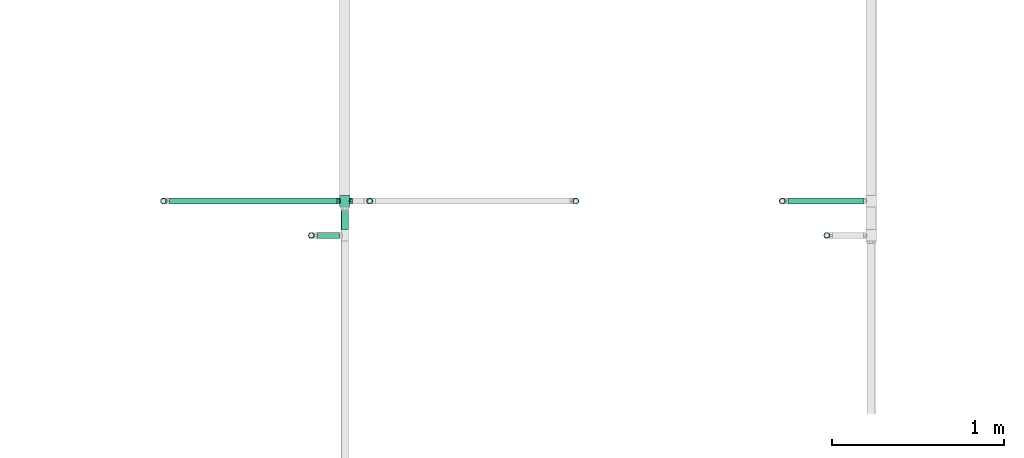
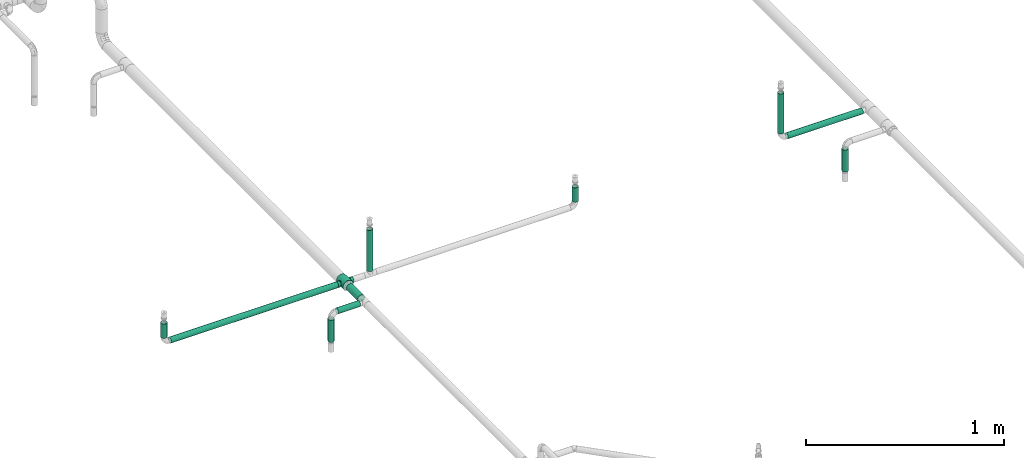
# One storey, part 13 of 157: 10 flow segments, 1 flow fitting.
"""IFC2X3 building model written with IfcOpenShell, lengths in millimetres."""

from ifc_helpers import new_model, entity, si_unit, converted_unit, derived_unit, direction, frame, origin_with_axes, origin_2d_with_axis, place, context, subcontext, project, spatial, hollow_circle, extrude, open_shell, surface_model, source, transform, mapped, type_object, element, save


model = new_model("IFC2X3")

# Units and contexts
model_context = context("Model", 3, precision=0.01, world=frame((0.0, 4.29681676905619e-09, 0.0)), true_north=direction((4.01073788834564e-13, 1.0)))
plan_context = context("Plan", 3, precision=0.01, world=frame((0.0, 4.29681676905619e-09, 0.0)), true_north=direction((4.01073788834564e-13, 1.0)))
body_context = subcontext(model_context, "Body", "Model", "MODEL_VIEW")
ifc_project = project(units=[converted_unit("PLANEANGLEUNIT", "DEGREE", entity("IfcPositiveLengthMeasure", 0.0174532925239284), si_unit("PLANEANGLEUNIT", "RADIAN"), dimensions=[0, 0, 0, 0, 0, 0, 0]), si_unit("AREAUNIT", "SQUARE_METRE"), si_unit("LENGTHUNIT", "METRE", prefix="MILLI"), si_unit("MASSUNIT", "GRAM", prefix="KILO"), si_unit("POWERUNIT", "WATT"), si_unit("PRESSUREUNIT", "PASCAL"), si_unit("FORCEUNIT", "NEWTON", prefix="KILO"), si_unit("ELECTRICCURRENTUNIT", "AMPERE"), si_unit("THERMODYNAMICTEMPERATUREUNIT", "DEGREE_CELSIUS"), si_unit("TIMEUNIT", "SECOND"), si_unit("VOLUMEUNIT", "CUBIC_METRE"), derived_unit("LINEARVELOCITYUNIT", [(si_unit("LENGTHUNIT", "METRE"), 1), (si_unit("TIMEUNIT", "SECOND"), -1)]), derived_unit("VOLUMETRICFLOWRATEUNIT", [(si_unit("VOLUMEUNIT", "CUBIC_METRE"), 1), (si_unit("TIMEUNIT", "SECOND"), -1)]), derived_unit("THERMALTRANSMITTANCEUNIT", [(si_unit("POWERUNIT", "WATT"), 1), (si_unit("THERMODYNAMICTEMPERATUREUNIT", "KELVIN"), -1), (si_unit("AREAUNIT", "SQUARE_METRE"), -1)])], contexts=[model_context, plan_context])

# Site, building, storey
site_placement = place(None, frame((0.0, -4.29681676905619e-09, 0.0), z_axis=(0.0, 0.0, 1.0), x_axis=(1.0, 0.0, 0.0)))
site = spatial("IfcSite", under=ifc_project, at=site_placement, CompositionType="ELEMENT")
building_placement = place(site_placement, frame((0.0, 4.29681676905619e-09, 0.0), z_axis=(0.0, 0.0, 1.0), x_axis=(1.0, 0.0, 0.0)))
building = spatial("IfcBuilding", under=site, at=building_placement, Name="mc-building", CompositionType="ELEMENT")
storey_placement = place(building_placement, frame((0.0, 0.0, 204000.0), z_axis=(0.0, 0.0, 1.0), x_axis=(1.0, 0.0, 0.0)))
storey = spatial("IfcBuildingStorey", under=building, at=storey_placement, Name="Nivå D", CompositionType="ELEMENT", Elevation=204000.0)

# Flow fitting
pipe_fitting_type = type_object("IfcPipeFittingType", Name="magi_pipe_fe_cross_centric_90_001", PredefinedType="JUNCTION")
shared_shape_1 = source(origin_with_axes(), body_context, "Body", "SurfaceModel", [
    surface_model("IfcShellBasedSurfaceModel", [(4.37404, 45.3, -16.32415), (16.32415, 45.3, -4.37404), (14.63583, 45.3, -8.45), (-33.8, 15.1, -26.15397), (-33.8, 7.81634, -29.17096), (-33.8, 0.0, -30.2), (-33.8, 29.17096, -7.81634), (-33.8, 26.15397, -15.1), (-33.8, 21.35462, -21.35462), (-33.8, 30.2, 0.0), (-33.8, -30.2, 0.0), (-33.8, -15.1, -26.15397), (-33.8, -21.35462, -21.35462), (-33.8, -7.81634, -29.17096), (-33.8, -26.15397, -15.1), (-33.8, -29.17096, -7.81634), (-33.8, 26.15397, 15.1), (-33.8, 29.17096, 7.81634), (-33.8, 15.1, 26.15397), (-33.8, -21.35462, 21.35462), (-33.8, 21.35462, 21.35462), (-33.8, 7.81634, 29.17096), (-33.8, -29.17096, 7.81634), (-33.8, -26.15397, 15.1), (-33.8, -7.81634, 29.17096), (-33.8, 0.0, 30.2), (-33.8, -15.1, 26.15397), (33.8, 29.17096, -7.81634), (33.8, 0.0, -30.2), (33.8, 7.81634, -29.17096), (33.8, 21.35462, -21.35462), (33.8, 15.1, -26.15397), (33.8, 26.15397, -15.1), (33.8, -30.2, 0.0), (33.8, -7.81634, -29.17096), (33.8, -21.35462, -21.35462), (33.8, -15.1, -26.15397), (33.8, -29.17096, -7.81634), (33.8, -26.15397, -15.1), (33.8, 30.2, 0.0), (33.8, 29.17096, 7.81634), (33.8, 26.15397, 15.1), (33.8, -29.17096, 7.81634), (33.8, 15.1, 26.15397), (33.8, 7.81634, 29.17096), (33.8, 21.35462, 21.35462), (33.8, -21.35462, 21.35462), (33.8, -26.15397, 15.1), (33.8, -15.1, 26.15397), (33.8, 0.0, 30.2), (33.8, -7.81634, 29.17096), (33.8, -29.68548, 3.90817), (15.846, -29.62306, 5.87488), (16.373, -29.91153, 2.93744), (16.9, -30.2, 0.0), (-8.51006, -26.43579, 14.60099), (-33.8, -27.66246, 11.45817), (-12.91447, -28.16405, 10.90075), (-15.84655, -29.62335, 5.87341), (12.91037, -28.16217, 10.90561), (33.8, -27.66246, 11.45817), (-2.99705, -25.20739, 16.63213), (2.99213, -25.2068, 16.63301), (-16.37327, -29.91168, 2.93671), (-33.8, -29.68548, 3.90817), (-16.37327, -29.91168, -2.93671), (-16.9, -30.2, 0.0), (2.99213, -25.2068, -16.63301), (-33.8, -29.68548, -3.90817), (-15.84655, -29.62335, -5.87341), (15.846, -29.62306, -5.87488), (12.91037, -28.16217, -10.90561), (8.50854, -26.43531, -14.60187), (33.8, -27.66246, -11.45817), (-12.91447, -28.16405, -10.90075), (-33.8, -27.66246, -11.45817), (33.8, -29.68548, -3.90817), (16.373, -29.91153, -2.93744), (-8.51006, -26.43579, -14.60099), (4.37404, -45.3, -16.32415), (-16.9, -45.3, 0.0), (0.0, -45.3, -16.9), (14.63583, -45.3, -8.45), (8.45, -45.3, -14.63583), (16.32415, -45.3, -4.37404), (11.9501, -45.3, -11.9501), (-11.9501, -45.3, -11.9501), (-8.45, -45.3, -14.63583), (-4.37404, -45.3, -16.32415), (-14.63583, -45.3, -8.45), (-16.32415, -45.3, -4.37404), (16.9, -45.3, 0.0), (8.45, -45.3, 14.63583), (16.32415, -45.3, 4.37404), (14.63583, -45.3, 8.45), (-8.45, -45.3, 14.63583), (11.9501, -45.3, 11.9501), (4.37404, -45.3, 16.32415), (-16.32415, -45.3, 4.37404), (-11.9501, -45.3, 11.9501), (-14.63583, -45.3, 8.45), (0.0, -45.3, 16.9), (-4.37404, -45.3, 16.32415), (-5.75355, -25.82159, 15.61656), (-0.00246, -25.20709, 16.63257), (5.75034, -25.82105, 15.61744), (8.50854, -26.43531, 14.60187), (5.75034, -25.82105, -15.61744), (-2.99705, -25.20739, -16.63213), (-0.00246, -25.20709, -16.63257), (-5.75355, -25.82159, -15.61656), (15.84655, 29.62335, 5.87341), (33.8, 29.68548, 3.90817), (16.37327, 29.91168, 2.93671), (2.99705, 25.20739, 16.63213), (16.9, 30.2, 0.0), (33.8, 27.66246, 11.45817), (8.51006, 26.43579, 14.60099), (12.91447, 28.16405, 10.90075), (-33.8, 29.68548, 3.90817), (-15.846, 29.62306, 5.87488), (-16.373, 29.91153, 2.93744), (-2.99213, 25.2068, 16.63301), (-8.50854, 26.43531, 14.60187), (-16.9, 30.2, 0.0), (-12.91037, 28.16217, 10.90561), (-33.8, 27.66246, 11.45817), (33.8, 29.68548, -3.90817), (15.84655, 29.62335, -5.87341), (16.37327, 29.91168, -2.93671), (12.91447, 28.16405, -10.90075), (8.51006, 26.43579, -14.60099), (33.8, 27.66246, -11.45817), (-2.99213, 25.2068, -16.63301), (2.99705, 25.20739, -16.63213), (-16.373, 29.91153, -2.93744), (-33.8, 29.68548, -3.90817), (-12.91037, 28.16217, -10.90561), (-33.8, 27.66246, -11.45817), (-15.846, 29.62306, -5.87488), (-8.50854, 26.43531, -14.60187), (-4.37404, 45.3, -16.32415), (16.32415, 45.3, 4.37404), (0.0, 45.3, -16.9), (-11.9501, 45.3, -11.9501), (-8.45, 45.3, -14.63583), (-14.63583, 45.3, -8.45), (-16.32415, 45.3, -4.37404), (16.9, 45.3, 0.0), (8.45, 45.3, -14.63583), (11.9501, 45.3, -11.9501), (8.45, 45.3, 14.63583), (-16.32415, 45.3, 4.37404), (-14.63583, 45.3, 8.45), (-8.45, 45.3, 14.63583), (-11.9501, 45.3, 11.9501), (-4.37404, 45.3, 16.32415), (11.9501, 45.3, 11.9501), (14.63583, 45.3, 8.45), (0.0, 45.3, 16.9), (4.37404, 45.3, 16.32415), (-16.9, 45.3, 0.0), (5.75355, 25.82159, 15.61656), (0.00246, 25.20709, 16.63257), (-5.75034, 25.82105, 15.61744), (-5.75034, 25.82105, -15.61744), (0.00246, 25.20709, -16.63257), (5.75355, 25.82159, -15.61656)], [open_shell([[[0, 1, 2]], [[3, 4, 5]], [[6, 3, 5]], [[3, 6, 7]], [[8, 3, 7]], [[9, 5, 10]], [[11, 12, 13]], [[12, 5, 13]], [[14, 15, 12]], [[10, 12, 15]], [[12, 10, 5]], [[9, 6, 5]], [[16, 17, 9]], [[10, 18, 16]], [[10, 19, 18]], [[20, 16, 18]], [[21, 18, 19]], [[22, 23, 10]], [[10, 23, 19]], [[24, 25, 26]], [[19, 26, 25]], [[19, 25, 21]], [[10, 16, 9]], [[27, 28, 29]], [[30, 29, 31]], [[32, 27, 29]], [[32, 29, 30]], [[28, 27, 33]], [[34, 35, 36]], [[35, 34, 37]], [[35, 37, 38]], [[37, 34, 33]], [[34, 28, 33]], [[27, 39, 33]], [[39, 40, 41]], [[42, 39, 41]], [[43, 44, 41]], [[43, 41, 45]], [[46, 41, 44]], [[42, 46, 47]], [[42, 41, 46]], [[48, 49, 50]], [[49, 48, 46]], [[44, 49, 46]], [[39, 42, 33]], [[51, 42, 52]], [[33, 51, 53]], [[33, 53, 54]], [[51, 52, 53]], [[55, 56, 57]], [[58, 57, 22]], [[59, 42, 60]], [[23, 61, 19]], [[61, 62, 19]], [[10, 63, 64]], [[58, 22, 64]], [[44, 43, 18]], [[48, 26, 46]], [[10, 65, 66]], [[35, 67, 12]], [[68, 69, 65]], [[70, 71, 37]], [[72, 73, 71]], [[74, 15, 75]], [[74, 69, 15]], [[70, 37, 76]], [[69, 68, 15]], [[65, 10, 68]], [[33, 77, 76]], [[75, 14, 78]], [[35, 12, 36]], [[79, 80, 81]], [[82, 79, 83]], [[82, 84, 79]], [[82, 83, 85]], [[80, 79, 84]], [[81, 86, 87]], [[87, 88, 81]], [[89, 80, 90]], [[86, 81, 89]], [[80, 89, 81]], [[84, 91, 80]], [[92, 91, 93]], [[92, 93, 94]], [[95, 80, 92]], [[92, 94, 96]], [[95, 92, 97]], [[98, 99, 100]], [[99, 98, 95]], [[95, 101, 102]], [[98, 80, 95]], [[97, 101, 95]], [[92, 80, 91]], [[98, 63, 80]], [[57, 100, 99]], [[98, 100, 58]], [[99, 95, 55]], [[63, 66, 80]], [[58, 100, 57]], [[102, 61, 103]], [[55, 57, 99]], [[101, 62, 104]], [[92, 105, 97]], [[101, 97, 62]], [[53, 52, 93]], [[53, 91, 54]], [[105, 92, 106]], [[103, 95, 102]], [[103, 55, 95]], [[101, 61, 102]], [[98, 58, 63]], [[106, 92, 96]], [[96, 59, 106]], [[62, 97, 105]], [[93, 52, 94]], [[91, 53, 93]], [[94, 52, 59]], [[94, 59, 96]], [[104, 61, 101]], [[84, 77, 91]], [[71, 82, 85]], [[84, 82, 70]], [[85, 83, 72]], [[77, 54, 91]], [[70, 82, 71]], [[79, 67, 107]], [[72, 71, 85]], [[81, 108, 109]], [[87, 110, 88]], [[65, 69, 90]], [[107, 83, 79]], [[107, 72, 83]], [[78, 87, 86]], [[84, 70, 77]], [[69, 89, 90]], [[65, 80, 66]], [[86, 89, 74]], [[81, 67, 79]], [[88, 110, 108]], [[108, 81, 88]], [[78, 110, 87]], [[78, 86, 74]], [[74, 89, 69]], [[80, 65, 90]], [[109, 67, 81]], [[59, 52, 42]], [[47, 106, 60]], [[19, 62, 46]], [[106, 47, 62]], [[106, 59, 60]], [[62, 47, 46]], [[111, 40, 112]], [[48, 50, 24]], [[39, 113, 112]], [[22, 57, 56]], [[64, 63, 58]], [[63, 10, 66]], [[55, 23, 56]], [[61, 23, 55]], [[26, 19, 46]], [[48, 24, 26]], [[50, 25, 24]], [[50, 49, 25]], [[45, 20, 43]], [[44, 21, 49]], [[114, 45, 41]], [[39, 115, 113]], [[112, 113, 111]], [[41, 116, 117]], [[111, 118, 40]], [[119, 120, 121]], [[118, 116, 40]], [[114, 41, 117]], [[21, 44, 18]], [[114, 122, 45]], [[16, 122, 123]], [[45, 122, 20]], [[20, 18, 43]], [[20, 122, 16]], [[9, 121, 124]], [[125, 17, 126]], [[125, 120, 17]], [[126, 16, 123]], [[120, 119, 17]], [[121, 9, 119]], [[117, 116, 118]], [[126, 123, 125]], [[49, 21, 25]], [[127, 27, 128]], [[39, 127, 129]], [[130, 128, 27]], [[32, 131, 132]], [[133, 134, 30]], [[31, 3, 30]], [[131, 32, 134]], [[131, 130, 132]], [[134, 32, 30]], [[31, 29, 4]], [[130, 27, 132]], [[9, 135, 136]], [[6, 137, 138]], [[139, 137, 6]], [[136, 135, 139]], [[135, 9, 124]], [[140, 7, 138]], [[7, 133, 8]], [[133, 7, 140]], [[133, 30, 8]], [[3, 8, 30]], [[31, 4, 3]], [[29, 5, 4]], [[139, 6, 136]], [[29, 28, 5]], [[34, 13, 28]], [[34, 36, 11]], [[67, 35, 38]], [[33, 54, 77]], [[76, 77, 70]], [[140, 138, 137]], [[38, 73, 72]], [[127, 128, 129]], [[71, 73, 37]], [[67, 38, 72]], [[13, 34, 11]], [[14, 108, 78]], [[12, 67, 108]], [[12, 11, 36]], [[12, 108, 14]], [[39, 129, 115]], [[75, 78, 74]], [[28, 13, 5]], [[141, 142, 143]], [[144, 141, 145]], [[146, 147, 141]], [[146, 141, 144]], [[148, 143, 142]], [[149, 2, 150]], [[2, 149, 0]], [[1, 0, 148]], [[0, 143, 148]], [[151, 141, 147]], [[147, 152, 151]], [[153, 151, 152]], [[153, 154, 151]], [[154, 153, 155]], [[154, 156, 151]], [[142, 157, 158]], [[157, 142, 151]], [[151, 159, 160]], [[142, 141, 151]], [[156, 159, 151]], [[152, 147, 161]], [[142, 113, 148]], [[118, 158, 157]], [[142, 158, 111]], [[157, 151, 117]], [[113, 115, 148]], [[111, 158, 118]], [[160, 114, 162]], [[117, 118, 157]], [[159, 122, 163]], [[154, 164, 156]], [[159, 156, 122]], [[121, 120, 152]], [[121, 161, 124]], [[164, 154, 123]], [[162, 151, 160]], [[162, 117, 151]], [[159, 114, 160]], [[142, 111, 113]], [[123, 154, 155]], [[155, 125, 123]], [[122, 156, 164]], [[152, 120, 153]], [[161, 121, 152]], [[153, 120, 125]], [[153, 125, 155]], [[163, 114, 159]], [[147, 135, 161]], [[137, 146, 144]], [[147, 146, 139]], [[144, 145, 140]], [[135, 124, 161]], [[139, 146, 137]], [[141, 133, 165]], [[140, 137, 144]], [[143, 134, 166]], [[149, 167, 0]], [[129, 128, 1]], [[165, 145, 141]], [[165, 140, 145]], [[131, 149, 150]], [[147, 139, 135]], [[128, 2, 1]], [[129, 148, 115]], [[150, 2, 130]], [[143, 133, 141]], [[0, 167, 134]], [[134, 143, 0]], [[131, 167, 149]], [[131, 150, 130]], [[130, 2, 128]], [[148, 129, 1]], [[166, 133, 143]]])]),
])
flow_fitting_placement = place(storey_placement, frame((524695.35, 410800.0, 2880.0), z_axis=(0.0, 0.0, 1.0), x_axis=(0.0, 1.0, 0.0)))
element("IfcFlowFitting", 1, at=flow_fitting_placement, inside=storey, type_object=pipe_fitting_type, Name="magi_pipe_fe_cross_centric_90_001", context=body_context, shape_type="MappedRepresentation", body=[
    mapped(shared_shape_1, transform((0.0, 0.0, 0.0), scale=1.0)),
])

# Flow segments
pipe_segment_type = type_object("IfcPipeSegmentType", Name="Stålrør normaltykke", PredefinedType="RIGIDSEGMENT")
shared_shape_2 = source(origin_with_axes(), body_context, "Body", "SweptSolid", [
    extrude(hollow_circle(Radius=16.9, WallThickness=2.0, at=origin_2d_with_axis()), frame((0.0, 0.0, 0.0), z_axis=(1.0, 0.0, 0.0), x_axis=(0.0, 1.0, 0.0)), (0.0, 0.0, 1.0), 247.3),
])
flow_segment_1_placement = place(storey_placement, frame((527240.35, 410800.00002, 2913.79999999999), z_axis=(0.0, 1.0, 0.0), x_axis=(0.0, 0.0, 1.0)))
element("IfcFlowSegment", 2, at=flow_segment_1_placement, inside=storey, type_object=pipe_segment_type, Name="Stålrør normaltykke", context=body_context, shape_type="MappedRepresentation", body=[
    mapped(shared_shape_2, transform((0.0, 0.0, 0.0), scale=1.0)),
])
shared_shape_3 = source(origin_with_axes(), body_context, "Body", "SweptSolid", [
    extrude(hollow_circle(Radius=16.9, WallThickness=2.0, at=origin_2d_with_axis()), frame((0.0, 0.0, 0.0), z_axis=(1.0, 0.0, 0.0), x_axis=(0.0, 1.0, 0.0)), (0.0, 0.0, 1.0), 254.8),
])
flow_segment_2_placement = place(storey_placement, frame((524840.35, 410800.0, 2905.35000000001), z_axis=(0.0, 1.0, 0.0), x_axis=(0.0, 0.0, 1.0)))
element("IfcFlowSegment", 3, at=flow_segment_2_placement, inside=storey, type_object=pipe_segment_type, Name="Stålrør normaltykke", context=body_context, shape_type="MappedRepresentation", body=[
    mapped(shared_shape_3, transform((0.0, 0.0, 0.0), scale=1.0)),
])
shared_shape_4 = source(origin_with_axes(), body_context, "Body", "SweptSolid", [
    extrude(hollow_circle(Radius=16.9, WallThickness=2.0, at=origin_2d_with_axis()), frame((0.0, 0.0, 0.0), z_axis=(1.0, 0.0, 0.0), x_axis=(0.0, 1.0, 0.0)), (0.0, 0.0, 1.0), 88.3),
])
for number, where, z_axis, x_axis in (
    (4, (526039.775, 410800.0, 3002.14799999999), (0.0, 1.0, 0.0), (0.0, 0.0, -1.0)),
    (5, (523639.775, 410800.0, 3002.14799999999), (0.0, 1.0, 0.0), (0.0, 0.0, -1.0)),
):
    element("IfcFlowSegment", number, at=place(storey_placement, frame(where, z_axis=z_axis, x_axis=x_axis)), inside=storey, type_object=pipe_segment_type, Name="Stålrør normaltykke", context=body_context, shape_type="MappedRepresentation", body=[
        mapped(shared_shape_4, transform((0.0, 0.0, 0.0), scale=1.0)),
    ])
shared_shape_5 = source(origin_with_axes(), body_context, "Body", "SweptSolid", [
    extrude(hollow_circle(Radius=16.9, WallThickness=2.0, at=origin_2d_with_axis()), frame((0.0, 0.0, 0.0), z_axis=(1.0, 0.0, 0.0), x_axis=(0.0, 1.0, 0.0)), (0.0, 0.0, 1.0), 136.8),
])
for number, where, z_axis, x_axis in (
    (6, (524500.0, 410600.0, 2846.20000000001), (1.0, 0.0, 0.0), (0.0, 0.0, -1.0)),
    (7, (527500.0, 410600.0, 2709.35200000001), (0.0, 1.0, 0.0), (0.0, 0.0, 1.0)),
):
    element("IfcFlowSegment", number, at=place(storey_placement, frame(where, z_axis=z_axis, x_axis=x_axis)), inside=storey, type_object=pipe_segment_type, Name="Stålrør normaltykke", context=body_context, shape_type="MappedRepresentation", body=[
        mapped(shared_shape_5, transform((0.0, 0.0, 0.0), scale=1.0)),
    ])
shared_shape_6 = source(origin_with_axes(), body_context, "Body", "SweptSolid", [
    extrude(hollow_circle(Radius=16.9, WallThickness=2.0, at=origin_2d_with_axis()), frame((0.0, 0.0, 0.0), z_axis=(1.0, 0.0, 0.0), x_axis=(0.0, 1.0, 0.0)), (0.0, 0.0, 1.0), 129.8),
])
flow_segment_3_placement = place(storey_placement, frame((524533.8, 410600.0, 2880.0), z_axis=(0.0, 0.0, 1.0), x_axis=(1.0, 0.0, 0.0)))
element("IfcFlowSegment", 8, at=flow_segment_3_placement, inside=storey, type_object=pipe_segment_type, Name="Stålrør normaltykke", context=body_context, shape_type="MappedRepresentation", body=[
    mapped(shared_shape_6, transform((0.0, 0.0, 0.0), scale=1.0)),
])
shared_shape_7 = source(origin_with_axes(), body_context, "Body", "SweptSolid", [
    extrude(hollow_circle(Radius=16.9, WallThickness=2.0, at=origin_2d_with_axis()), frame((0.0, 0.0, 0.0), z_axis=(1.0, 0.0, 0.0), x_axis=(0.0, 1.0, 0.0)), (0.0, 0.0, 1.0), 438.8),
])
flow_segment_4_placement = place(storey_placement, frame((527274.15, 410800.00002, 2880.0), z_axis=(0.0, 0.0, 1.0), x_axis=(1.0, 0.0, 0.0)))
element("IfcFlowSegment", 9, at=flow_segment_4_placement, inside=storey, type_object=pipe_segment_type, Name="Stålrør normaltykke", context=body_context, shape_type="MappedRepresentation", body=[
    mapped(shared_shape_7, transform((0.0, 0.0, 0.0), scale=1.0)),
])
shared_shape_8 = source(origin_with_axes(), body_context, "Body", "SweptSolid", [
    extrude(hollow_circle(Radius=16.9, WallThickness=2.0, at=origin_2d_with_axis()), frame((0.0, 0.0, 0.0), z_axis=(1.0, 0.0, 0.0), x_axis=(0.0, 1.0, 0.0)), (0.0, 0.0, 1.0), 976.5),
])
flow_segment_5_placement = place(storey_placement, frame((523673.575, 410800.0, 2880.0), z_axis=(0.0, 0.0, 1.0), x_axis=(1.0, 0.0, 0.0)))
element("IfcFlowSegment", 10, at=flow_segment_5_placement, inside=storey, type_object=pipe_segment_type, Name="Stålrør normaltykke", context=body_context, shape_type="MappedRepresentation", body=[
    mapped(shared_shape_8, transform((0.0, 0.0, 0.0), scale=1.0)),
])
shared_shape_9 = source(origin_with_axes(), body_context, "Body", "SweptSolid", [
    extrude(hollow_circle(Radius=21.2, WallThickness=2.0, at=origin_2d_with_axis()), frame((0.0, 0.0, 0.0), z_axis=(1.0, 0.0, 0.0), x_axis=(0.0, 1.0, 0.0)), (0.0, 0.0, 1.0), 114.4),
])
flow_segment_6_placement = place(storey_placement, frame((524695.35, 410748.2, 2880.0), z_axis=(0.0, 0.0, 1.0), x_axis=(0.0, -1.0, 0.0)))
element("IfcFlowSegment", 11, at=flow_segment_6_placement, inside=storey, type_object=pipe_segment_type, Name="Stålrør normaltykke", context=body_context, shape_type="MappedRepresentation", body=[
    mapped(shared_shape_9, transform((0.0, 0.0, 0.0), scale=1.0)),
])

save(model, "model.ifc")
